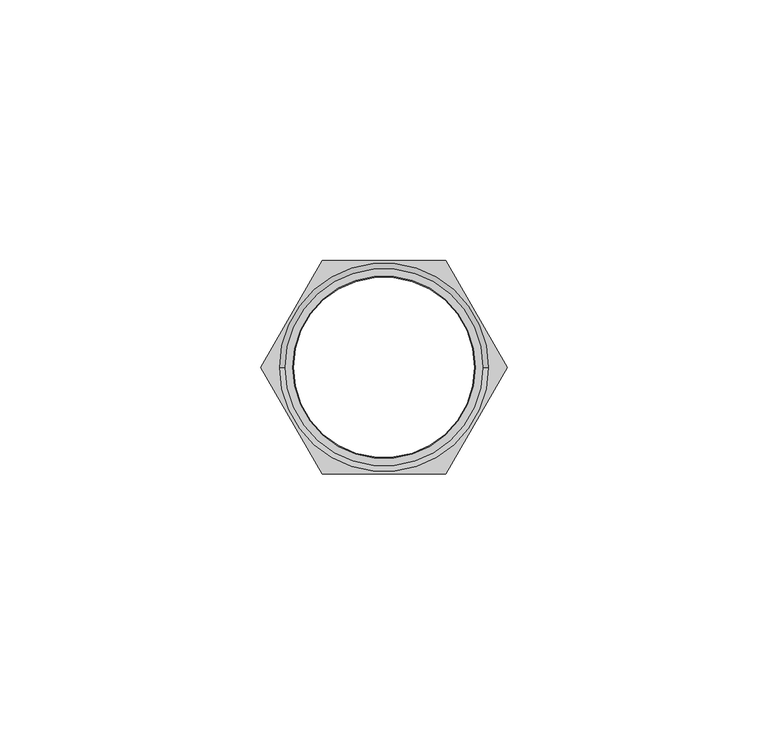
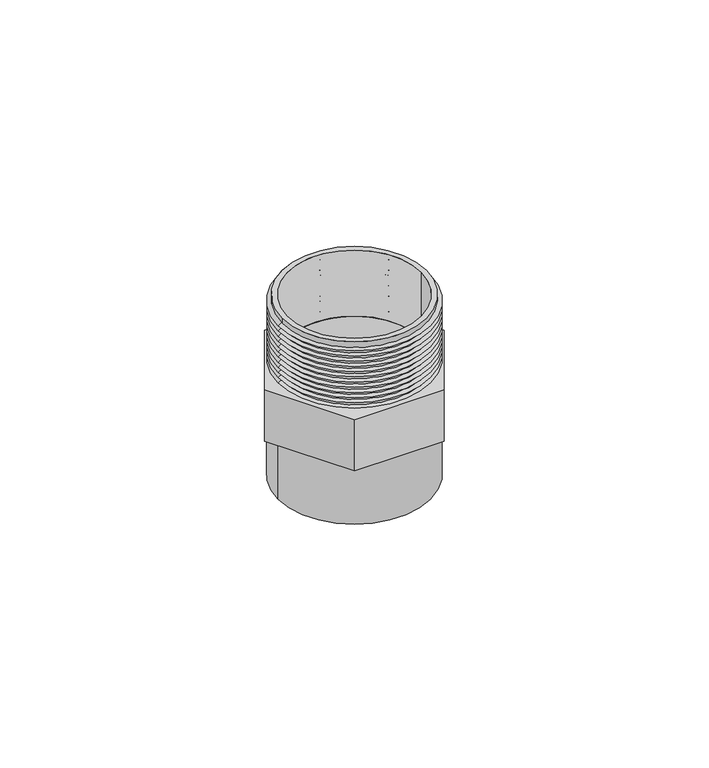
"""IFC4 building model written with IfcOpenShell, lengths in millimetres: valve geometry, Adaptador Macho_Lubrizol_CPVC_FlowGuard_MX 32mm : Adaptador Macho_Lubrizol_CPVC_FlowGuard_MX 32mm."""

from ifc_helpers import new_model, si_unit, point, frame, origin, origin_with_axes, origin_2d, place, context, project, spatial, polyline, circle_curve, trimmed, segment, composite_curve, outline, extrude, source, transform, mapped, element, save
from ifc_brep_helpers import plane_surface, cylinder_surface, revolved_surface, advanced_brep


def valve_4e4fad23(model_context):
    return source(origin(), model_context, "Body", "SolidModel", [
        extrude(outline(composite_curve([segment(trimmed(circle_curve(origin_2d(), 18.9323508), [point((-18.9323508, 0.0))], [point((18.9323508, 0.0))], False, "CARTESIAN"), True, "CONTINUOUS"), segment(trimmed(circle_curve(origin_2d(), 18.9323508), [point((18.9323508, 0.0))], [point((-18.9323508, 0.0))], False, "CARTESIAN"), True, "CONTINUOUS")], self_intersect=False), holes=[composite_curve([segment(trimmed(circle_curve(origin_2d(), 17.5), [point((-17.5, 0.0))], [point((17.5, 0.0))], True, "CARTESIAN"), True, "CONTINUOUS"), segment(trimmed(circle_curve(origin_2d(), 17.5), [point((17.5, 0.0))], [point((-17.5, 0.0))], True, "CARTESIAN"), True, "CONTINUOUS")], self_intersect=False)]), frame((0.0, 0.0, 31.5767791), z_axis=(0.0, 0.0, 1.0), x_axis=(1.0, 0.0, 0.0)), (0.0, 0.0, 1.0), 18.2982209),
        extrude(outline(polyline([(-11.7996132, -20.4375296), (-23.5992265, 0.0), (-11.7996132, 20.4375296), (11.7996132, 20.4375296), (23.5992265, 0.0), (11.7996132, -20.4375296), (-11.7996132, -20.4375296)]), holes=[composite_curve([segment(trimmed(circle_curve(origin_2d(), 17.3348641), [point((-17.3348641, 0.0))], [point((17.3348641, 0.0))], True, "CARTESIAN"), True, "CONTINUOUS"), segment(trimmed(circle_curve(origin_2d(), 17.3348641), [point((17.3348641, 0.0))], [point((-17.3348641, 0.0))], True, "CARTESIAN"), True, "CONTINUOUS")], self_intersect=False)]), frame((0.0, 0.0, 17.3384954), z_axis=(0.0, 0.0, 1.0), x_axis=(1.0, 0.0, 0.0)), (0.0, 0.0, 1.0), 14.2382837),
        advanced_brep(
        [(18.9362873, 0.0, 48.8839284), (-18.9362873, 0.0, 48.8839284), (-18.9362873, 0.0, 49.875), (18.9362873, 0.0, 49.875), (20.0, 0.0, 48.1391088), (-20.0, 0.0, 48.1391088), (18.9657757, 0.0, 47.4149371), (-18.9657757, 0.0, 47.4149371), (20.0, 0.0, 46.6907655), (-20.0, 0.0, 46.6907655), (18.9657757, 0.0, 45.9665939), (-18.9657757, 0.0, 45.9665939), (20.0, 0.0, 45.2424223), (-20.0, 0.0, 45.2424223), (18.9657757, 0.0, 44.5182506), (-18.9657757, 0.0, 44.5182506), (20.0, 0.0, 43.794079), (-20.0, 0.0, 43.794079), (18.9657757, 0.0, 43.0699074), (-18.9657757, 0.0, 43.0699074), (20.0, 0.0, 42.3457358), (-20.0, 0.0, 42.3457358), (18.9657757, 0.0, 41.6215641), (-18.9657757, 0.0, 41.6215641), (20.0, 0.0, 40.8973925), (-20.0, 0.0, 40.8973925), (18.9657757, 0.0, 40.1732209), (-18.9657757, 0.0, 40.1732209), (20.0, 0.0, 39.4490493), (-20.0, 0.0, 39.4490493), (18.9657757, 0.0, 38.7248777), (-18.9657757, 0.0, 38.7248777), (20.0, 0.0, 38.000706), (-20.0, 0.0, 38.000706), (18.9657757, 0.0, 37.2765344), (-18.9657757, 0.0, 37.2765344), (20.0, 0.0, 36.5523628), (-20.0, 0.0, 36.5523628), (18.9992007, 0.0, 35.8515956), (-18.9992007, 0.0, 35.8515956), (20.0, 0.0, 35.1508284), (-20.0, 0.0, 35.1508284), (18.9992007, 0.0, 34.4500612), (-18.9992007, 0.0, 34.4500612), (18.0854831, 0.0, 49.875), (-18.0854831, 0.0, 49.875), (-18.0854831, 0.0, 31.5767791), (18.0854831, 0.0, 31.5767791), (20.0, 0.0, 33.749294), (-20.0, 0.0, 33.749294), (18.9323508, 0.0, 33.0017179), (-18.9323508, 0.0, 33.0017179), (20.0, 0.0, 32.2541419), (-20.0, 0.0, 32.2541419), (19.0326257, 0.0, 31.5767791), (-19.0326257, 0.0, 31.5767791)],
        [
            (0, 1, circle_curve(frame((0.0, 0.0, 48.8839284), z_axis=(0.0, 0.0, 1.0), x_axis=(-1.0, 0.0, 0.0)), 18.9362873)),
            (1, 2),
            (2, 3, circle_curve(frame((0.0, 0.0, 49.875), z_axis=(0.0, 0.0, -1.0), x_axis=(-1.0, 0.0, 0.0)), 18.9362873)),
            (3, 0),
            (1, 0, circle_curve(frame((0.0, 0.0, 48.8839284), z_axis=(0.0, 0.0, 1.0), x_axis=(-1.0, 0.0, 0.0)), 18.9362873)),
            (3, 2, circle_curve(frame((0.0, 0.0, 49.875), z_axis=(0.0, 0.0, -1.0), x_axis=(-1.0, 0.0, 0.0)), 18.9362873)),
            (4, 5, circle_curve(frame((0.0, 0.0, 48.1391088), z_axis=(0.0, 0.0, 1.0), x_axis=(-1.0, 0.0, 0.0)), 20.0)),
            (5, 1),
            (0, 4),
            (5, 4, circle_curve(frame((0.0, 0.0, 48.1391088), z_axis=(0.0, 0.0, 1.0), x_axis=(-1.0, 0.0, 0.0)), 20.0)),
            (6, 7, circle_curve(frame((0.0, 0.0, 47.4149371), z_axis=(0.0, 0.0, 1.0), x_axis=(-1.0, 0.0, 0.0)), 18.9657757)),
            (7, 5),
            (4, 6),
            (7, 6, circle_curve(frame((0.0, 0.0, 47.4149371), z_axis=(0.0, 0.0, 1.0), x_axis=(-1.0, 0.0, 0.0)), 18.9657757)),
            (8, 9, circle_curve(frame((0.0, 0.0, 46.6907655), z_axis=(0.0, 0.0, 1.0), x_axis=(-1.0, 0.0, 0.0)), 20.0)),
            (9, 7),
            (6, 8),
            (9, 8, circle_curve(frame((0.0, 0.0, 46.6907655), z_axis=(0.0, 0.0, 1.0), x_axis=(-1.0, 0.0, 0.0)), 20.0)),
            (10, 11, circle_curve(frame((0.0, 0.0, 45.9665939), z_axis=(0.0, 0.0, 1.0), x_axis=(-1.0, 0.0, 0.0)), 18.9657757)),
            (11, 9),
            (8, 10),
            (11, 10, circle_curve(frame((0.0, 0.0, 45.9665939), z_axis=(0.0, 0.0, 1.0), x_axis=(-1.0, 0.0, 0.0)), 18.9657757)),
            (12, 13, circle_curve(frame((0.0, 0.0, 45.2424223), z_axis=(0.0, 0.0, 1.0), x_axis=(-1.0, 0.0, 0.0)), 20.0)),
            (13, 11),
            (10, 12),
            (13, 12, circle_curve(frame((0.0, 0.0, 45.2424223), z_axis=(0.0, 0.0, 1.0), x_axis=(-1.0, 0.0, 0.0)), 20.0)),
            (14, 15, circle_curve(frame((0.0, 0.0, 44.5182506), z_axis=(0.0, 0.0, 1.0), x_axis=(-1.0, 0.0, 0.0)), 18.9657757)),
            (15, 13),
            (12, 14),
            (15, 14, circle_curve(frame((0.0, 0.0, 44.5182506), z_axis=(0.0, 0.0, 1.0), x_axis=(-1.0, 0.0, 0.0)), 18.9657757)),
            (16, 17, circle_curve(frame((0.0, 0.0, 43.794079), z_axis=(0.0, 0.0, 1.0), x_axis=(-1.0, 0.0, 0.0)), 20.0)),
            (17, 15),
            (14, 16),
            (17, 16, circle_curve(frame((0.0, 0.0, 43.794079), z_axis=(0.0, 0.0, 1.0), x_axis=(-1.0, 0.0, 0.0)), 20.0)),
            (18, 19, circle_curve(frame((0.0, 0.0, 43.0699074), z_axis=(0.0, 0.0, 1.0), x_axis=(-1.0, 0.0, 0.0)), 18.9657757)),
            (19, 17),
            (16, 18),
            (19, 18, circle_curve(frame((0.0, 0.0, 43.0699074), z_axis=(0.0, 0.0, 1.0), x_axis=(-1.0, 0.0, 0.0)), 18.9657757)),
            (20, 21, circle_curve(frame((0.0, 0.0, 42.3457358), z_axis=(0.0, 0.0, 1.0), x_axis=(-1.0, 0.0, 0.0)), 20.0)),
            (21, 19),
            (18, 20),
            (21, 20, circle_curve(frame((0.0, 0.0, 42.3457358), z_axis=(0.0, 0.0, 1.0), x_axis=(-1.0, 0.0, 0.0)), 20.0)),
            (22, 23, circle_curve(frame((0.0, 0.0, 41.6215641), z_axis=(0.0, 0.0, 1.0), x_axis=(-1.0, 0.0, 0.0)), 18.9657757)),
            (23, 21),
            (20, 22),
            (23, 22, circle_curve(frame((0.0, 0.0, 41.6215641), z_axis=(0.0, 0.0, 1.0), x_axis=(-1.0, 0.0, 0.0)), 18.9657757)),
            (24, 25, circle_curve(frame((0.0, 0.0, 40.8973925), z_axis=(0.0, 0.0, 1.0), x_axis=(-1.0, 0.0, 0.0)), 20.0)),
            (25, 23),
            (22, 24),
            (25, 24, circle_curve(frame((0.0, 0.0, 40.8973925), z_axis=(0.0, 0.0, 1.0), x_axis=(-1.0, 0.0, 0.0)), 20.0)),
            (26, 27, circle_curve(frame((0.0, 0.0, 40.1732209), z_axis=(0.0, 0.0, 1.0), x_axis=(-1.0, 0.0, 0.0)), 18.9657757)),
            (27, 25),
            (24, 26),
            (27, 26, circle_curve(frame((0.0, 0.0, 40.1732209), z_axis=(0.0, 0.0, 1.0), x_axis=(-1.0, 0.0, 0.0)), 18.9657757)),
            (28, 29, circle_curve(frame((0.0, 0.0, 39.4490493), z_axis=(0.0, 0.0, 1.0), x_axis=(-1.0, 0.0, 0.0)), 20.0)),
            (29, 27),
            (26, 28),
            (29, 28, circle_curve(frame((0.0, 0.0, 39.4490493), z_axis=(0.0, 0.0, 1.0), x_axis=(-1.0, 0.0, 0.0)), 20.0)),
            (30, 31, circle_curve(frame((0.0, 0.0, 38.7248777), z_axis=(0.0, 0.0, 1.0), x_axis=(-1.0, 0.0, 0.0)), 18.9657757)),
            (31, 29),
            (28, 30),
            (31, 30, circle_curve(frame((0.0, 0.0, 38.7248777), z_axis=(0.0, 0.0, 1.0), x_axis=(-1.0, 0.0, 0.0)), 18.9657757)),
            (32, 33, circle_curve(frame((0.0, 0.0, 38.000706), z_axis=(0.0, 0.0, 1.0), x_axis=(-1.0, 0.0, 0.0)), 20.0)),
            (33, 31),
            (30, 32),
            (33, 32, circle_curve(frame((0.0, 0.0, 38.000706), z_axis=(0.0, 0.0, 1.0), x_axis=(-1.0, 0.0, 0.0)), 20.0)),
            (34, 35, circle_curve(frame((0.0, 0.0, 37.2765344), z_axis=(0.0, 0.0, 1.0), x_axis=(-1.0, 0.0, 0.0)), 18.9657757)),
            (35, 33),
            (32, 34),
            (35, 34, circle_curve(frame((0.0, 0.0, 37.2765344), z_axis=(0.0, 0.0, 1.0), x_axis=(-1.0, 0.0, 0.0)), 18.9657757)),
            (36, 37, circle_curve(frame((0.0, 0.0, 36.5523628), z_axis=(0.0, 0.0, 1.0), x_axis=(-1.0, 0.0, 0.0)), 20.0)),
            (37, 35),
            (34, 36),
            (37, 36, circle_curve(frame((0.0, 0.0, 36.5523628), z_axis=(0.0, 0.0, 1.0), x_axis=(-1.0, 0.0, 0.0)), 20.0)),
            (38, 39, circle_curve(frame((0.0, 0.0, 35.8515956), z_axis=(0.0, 0.0, 1.0), x_axis=(-1.0, 0.0, 0.0)), 18.9992007)),
            (39, 37),
            (36, 38),
            (39, 38, circle_curve(frame((0.0, 0.0, 35.8515956), z_axis=(0.0, 0.0, 1.0), x_axis=(-1.0, 0.0, 0.0)), 18.9992007)),
            (40, 41, circle_curve(frame((0.0, 0.0, 35.1508284), z_axis=(0.0, 0.0, 1.0), x_axis=(-1.0, 0.0, 0.0)), 20.0)),
            (41, 39),
            (38, 40),
            (41, 40, circle_curve(frame((0.0, 0.0, 35.1508284), z_axis=(0.0, 0.0, 1.0), x_axis=(-1.0, 0.0, 0.0)), 20.0)),
            (42, 43, circle_curve(frame((0.0, 0.0, 34.4500612), z_axis=(0.0, 0.0, 1.0), x_axis=(-1.0, 0.0, 0.0)), 18.9992007)),
            (43, 41),
            (40, 42),
            (43, 42, circle_curve(frame((0.0, 0.0, 34.4500612), z_axis=(0.0, 0.0, 1.0), x_axis=(-1.0, 0.0, 0.0)), 18.9992007)),
            (44, 45, circle_curve(frame((0.0, 0.0, 49.875), z_axis=(0.0, 0.0, 1.0), x_axis=(-1.0, 0.0, 0.0)), 18.0854831)),
            (45, 46),
            (46, 47, circle_curve(frame((0.0, 0.0, 31.5767791), z_axis=(0.0, 0.0, -1.0), x_axis=(-1.0, 0.0, 0.0)), 18.0854831)),
            (47, 44),
            (45, 44, circle_curve(frame((0.0, 0.0, 49.875), z_axis=(0.0, 0.0, 1.0), x_axis=(-1.0, 0.0, 0.0)), 18.0854831)),
            (47, 46, circle_curve(frame((0.0, 0.0, 31.5767791), z_axis=(0.0, 0.0, -1.0), x_axis=(-1.0, 0.0, 0.0)), 18.0854831)),
            (2, 45),
            (44, 3),
            (48, 49, circle_curve(frame((0.0, 0.0, 33.749294), z_axis=(0.0, 0.0, 1.0), x_axis=(-1.0, 0.0, 0.0)), 20.0)),
            (49, 43),
            (42, 48),
            (49, 48, circle_curve(frame((0.0, 0.0, 33.749294), z_axis=(0.0, 0.0, 1.0), x_axis=(-1.0, 0.0, 0.0)), 20.0)),
            (50, 51, circle_curve(frame((0.0, 0.0, 33.0017179), z_axis=(0.0, 0.0, 1.0), x_axis=(-1.0, 0.0, 0.0)), 18.9323508)),
            (51, 49),
            (48, 50),
            (51, 50, circle_curve(frame((0.0, 0.0, 33.0017179), z_axis=(0.0, 0.0, 1.0), x_axis=(-1.0, 0.0, 0.0)), 18.9323508)),
            (52, 53, circle_curve(frame((0.0, 0.0, 32.2541419), z_axis=(0.0, 0.0, 1.0), x_axis=(-1.0, 0.0, 0.0)), 20.0)),
            (53, 51),
            (50, 52),
            (53, 52, circle_curve(frame((0.0, 0.0, 32.2541419), z_axis=(0.0, 0.0, 1.0), x_axis=(-1.0, 0.0, 0.0)), 20.0)),
            (54, 55, circle_curve(frame((0.0, 0.0, 31.5767791), z_axis=(0.0, 0.0, 1.0), x_axis=(-1.0, 0.0, 0.0)), 19.0326257)),
            (55, 53),
            (52, 54),
            (55, 54, circle_curve(frame((0.0, 0.0, 31.5767791), z_axis=(0.0, 0.0, 1.0), x_axis=(-1.0, 0.0, 0.0)), 19.0326257)),
            (46, 55),
            (54, 47),
        ],
        [
            cylinder_surface(frame((0.0, 0.0, 44.6339883), z_axis=(0.0, 0.0, -1.0), x_axis=(-1.0, 0.0, 0.0)), 18.9362873),
            revolved_surface(polyline([(-18.9362873, 0.0, 48.8839284), (-20.0, 0.0, 48.1391088)]), (0.0, 0.0, 44.6339883), (0.0, 0.0, -1.0)),
            revolved_surface(polyline([(-20.0, 0.0, 48.1391088), (-18.9657757, 0.0, 47.4149371)]), (0.0, 0.0, 44.6339883), (0.0, 0.0, -1.0)),
            revolved_surface(polyline([(-18.9657757, 0.0, 47.4149371), (-20.0, 0.0, 46.6907655)]), (0.0, 0.0, 44.6339883), (0.0, 0.0, -1.0)),
            revolved_surface(polyline([(-20.0, 0.0, 46.6907655), (-18.9657757, 0.0, 45.9665939)]), (0.0, 0.0, 44.6339883), (0.0, 0.0, -1.0)),
            revolved_surface(polyline([(-18.9657757, 0.0, 45.9665939), (-20.0, 0.0, 45.2424223)]), (0.0, 0.0, 44.6339883), (0.0, 0.0, -1.0)),
            revolved_surface(polyline([(-20.0, 0.0, 45.2424223), (-18.9657757, 0.0, 44.5182506)]), (0.0, 0.0, 44.6339883), (0.0, 0.0, -1.0)),
            revolved_surface(polyline([(-18.9657757, 0.0, 44.5182506), (-20.0, 0.0, 43.794079)]), (0.0, 0.0, 44.6339883), (0.0, 0.0, -1.0)),
            revolved_surface(polyline([(-20.0, 0.0, 43.794079), (-18.9657757, 0.0, 43.0699074)]), (0.0, 0.0, 44.6339883), (0.0, 0.0, -1.0)),
            revolved_surface(polyline([(-18.9657757, 0.0, 43.0699074), (-20.0, 0.0, 42.3457358)]), (0.0, 0.0, 44.6339883), (0.0, 0.0, -1.0)),
            revolved_surface(polyline([(-20.0, 0.0, 42.3457358), (-18.9657757, 0.0, 41.6215641)]), (0.0, 0.0, 44.6339883), (0.0, 0.0, -1.0)),
            revolved_surface(polyline([(-18.9657757, 0.0, 41.6215641), (-20.0, 0.0, 40.8973925)]), (0.0, 0.0, 44.6339883), (0.0, 0.0, -1.0)),
            revolved_surface(polyline([(-20.0, 0.0, 40.8973925), (-18.9657757, 0.0, 40.1732209)]), (0.0, 0.0, 44.6339883), (0.0, 0.0, -1.0)),
            revolved_surface(polyline([(-18.9657757, 0.0, 40.1732209), (-20.0, 0.0, 39.4490493)]), (0.0, 0.0, 44.6339883), (0.0, 0.0, -1.0)),
            revolved_surface(polyline([(-20.0, 0.0, 39.4490493), (-18.9657757, 0.0, 38.7248777)]), (0.0, 0.0, 44.6339883), (0.0, 0.0, -1.0)),
            revolved_surface(polyline([(-18.9657757, 0.0, 38.7248777), (-20.0, 0.0, 38.000706)]), (0.0, 0.0, 44.6339883), (0.0, 0.0, -1.0)),
            revolved_surface(polyline([(-20.0, 0.0, 38.000706), (-18.9657757, 0.0, 37.2765344)]), (0.0, 0.0, 44.6339883), (0.0, 0.0, -1.0)),
            revolved_surface(polyline([(-18.9657757, 0.0, 37.2765344), (-20.0, 0.0, 36.5523628)]), (0.0, 0.0, 44.6339883), (0.0, 0.0, -1.0)),
            revolved_surface(polyline([(-20.0, 0.0, 36.5523628), (-18.9992007, 0.0, 35.8515956)]), (0.0, 0.0, 44.6339883), (0.0, 0.0, -1.0)),
            revolved_surface(polyline([(-18.9992007, 0.0, 35.8515956), (-20.0, 0.0, 35.1508284)]), (0.0, 0.0, 44.6339883), (0.0, 0.0, -1.0)),
            revolved_surface(polyline([(-20.0, 0.0, 35.1508284), (-18.9992007, 0.0, 34.4500612)]), (0.0, 0.0, 44.6339883), (0.0, 0.0, -1.0)),
            revolved_surface(polyline([(-18.0854831, 0.0, 31.5767791), (-18.0854831, 0.0, 49.875)]), (0.0, 0.0, 44.6339883), (0.0, 0.0, -1.0)),
            plane_surface(frame((0.0, 0.0, 49.875), z_axis=(0.0, 0.0, 1.0), x_axis=(-1.0, 0.0, 0.0))),
            revolved_surface(polyline([(-18.9992007, 0.0, 34.4500612), (-20.0, 0.0, 33.749294)]), (0.0, 0.0, 44.6339883), (0.0, 0.0, -1.0)),
            revolved_surface(polyline([(-20.0, 0.0, 33.749294), (-18.9323508, 0.0, 33.0017179)]), (0.0, 0.0, 44.6339883), (0.0, 0.0, -1.0)),
            revolved_surface(polyline([(-18.9323508, 0.0, 33.0017179), (-20.0, 0.0, 32.2541419)]), (0.0, 0.0, 44.6339883), (0.0, 0.0, -1.0)),
            revolved_surface(polyline([(-20.0, 0.0, 32.2541419), (-19.0326257, 0.0, 31.5767791)]), (0.0, 0.0, 44.6339883), (0.0, 0.0, -1.0)),
            plane_surface(frame((0.0, 0.0, 31.5767791), z_axis=(0.0, 0.0, -1.0), x_axis=(-1.0, 0.0, 0.0))),
        ],
        [
            (0, [[1, 2, 3, 4]]),
            (0, [[5, -4, 6, -2]]),
            (1, [[7, 8, -1, 9]]),
            (1, [[10, -9, -5, -8]]),
            (2, [[11, 12, -7, 13]]),
            (2, [[14, -13, -10, -12]]),
            (3, [[15, 16, -11, 17]]),
            (3, [[18, -17, -14, -16]]),
            (4, [[19, 20, -15, 21]]),
            (4, [[22, -21, -18, -20]]),
            (5, [[23, 24, -19, 25]]),
            (5, [[26, -25, -22, -24]]),
            (6, [[27, 28, -23, 29]]),
            (6, [[30, -29, -26, -28]]),
            (7, [[31, 32, -27, 33]]),
            (7, [[34, -33, -30, -32]]),
            (8, [[35, 36, -31, 37]]),
            (8, [[38, -37, -34, -36]]),
            (9, [[39, 40, -35, 41]]),
            (9, [[42, -41, -38, -40]]),
            (10, [[43, 44, -39, 45]]),
            (10, [[46, -45, -42, -44]]),
            (11, [[47, 48, -43, 49]]),
            (11, [[50, -49, -46, -48]]),
            (12, [[51, 52, -47, 53]]),
            (12, [[54, -53, -50, -52]]),
            (13, [[55, 56, -51, 57]]),
            (13, [[58, -57, -54, -56]]),
            (14, [[59, 60, -55, 61]]),
            (14, [[62, -61, -58, -60]]),
            (15, [[63, 64, -59, 65]]),
            (15, [[66, -65, -62, -64]]),
            (16, [[67, 68, -63, 69]]),
            (16, [[70, -69, -66, -68]]),
            (17, [[71, 72, -67, 73]]),
            (17, [[74, -73, -70, -72]]),
            (18, [[75, 76, -71, 77]]),
            (18, [[78, -77, -74, -76]]),
            (19, [[79, 80, -75, 81]]),
            (19, [[82, -81, -78, -80]]),
            (20, [[83, 84, -79, 85]]),
            (20, [[86, -85, -82, -84]]),
            (21, [[87, 88, 89, 90]]),
            (21, [[91, -90, 92, -88]]),
            (22, [[-3, 93, -87, 94]]),
            (22, [[-6, -94, -91, -93]]),
            (23, [[95, 96, -83, 97]]),
            (23, [[98, -97, -86, -96]]),
            (24, [[99, 100, -95, 101]]),
            (24, [[102, -101, -98, -100]]),
            (25, [[103, 104, -99, 105]]),
            (25, [[106, -105, -102, -104]]),
            (26, [[107, 108, -103, 109]]),
            (26, [[110, -109, -106, -108]]),
            (27, [[-89, 111, -107, 112]]),
            (27, [[-92, -112, -110, -111]]),
        ],
    ),
        extrude(outline(composite_curve([segment(trimmed(circle_curve(origin_2d(), 20.0), [point((-20.0, 0.0))], [point((20.0, 0.0))], False, "CARTESIAN"), True, "CONTINUOUS"), segment(trimmed(circle_curve(origin_2d(), 20.0), [point((20.0, 0.0))], [point((-20.0, 0.0))], False, "CARTESIAN"), True, "CONTINUOUS")], self_intersect=False), holes=[composite_curve([segment(trimmed(circle_curve(origin_2d(), 17.5), [point((-17.5, 0.0))], [point((17.5, 0.0))], True, "CARTESIAN"), True, "CONTINUOUS"), segment(trimmed(circle_curve(origin_2d(), 17.5), [point((17.5, 0.0))], [point((-17.5, 0.0))], True, "CARTESIAN"), True, "CONTINUOUS")], self_intersect=False)]), origin_with_axes(), (0.0, 0.0, 1.0), 17.3384954),
    ])


if __name__ == "__main__":
    model = new_model("IFC4")
    model_context = context("Model", 3, world=origin())
    ifc_project = project(units=[si_unit("LENGTHUNIT", "METRE", prefix="MILLI")], contexts=[model_context])
    site = spatial("IfcSite", under=ifc_project)
    building = spatial("IfcBuilding", under=site)
    placement = place(None, origin())
    valve_shape = valve_4e4fad23(model_context)
    element("IfcValve", 1, ObjectType="Adaptador Macho_Lubrizol_CPVC_FlowGuard_MX 32mm : Adaptador Macho_Lubrizol_CPVC_FlowGuard_MX 32mm", at=placement, inside=building, context=model_context, shape_type="MappedRepresentation", body=[
        mapped(valve_shape, transform((0.0, 0.0, 0.0), x_axis=(1.0, 0.0, 0.0), y_axis=(0.0, 1.0, 0.0), z_axis=(0.0, 0.0, 1.0))),
    ])
    save(model, "model.ifc")
